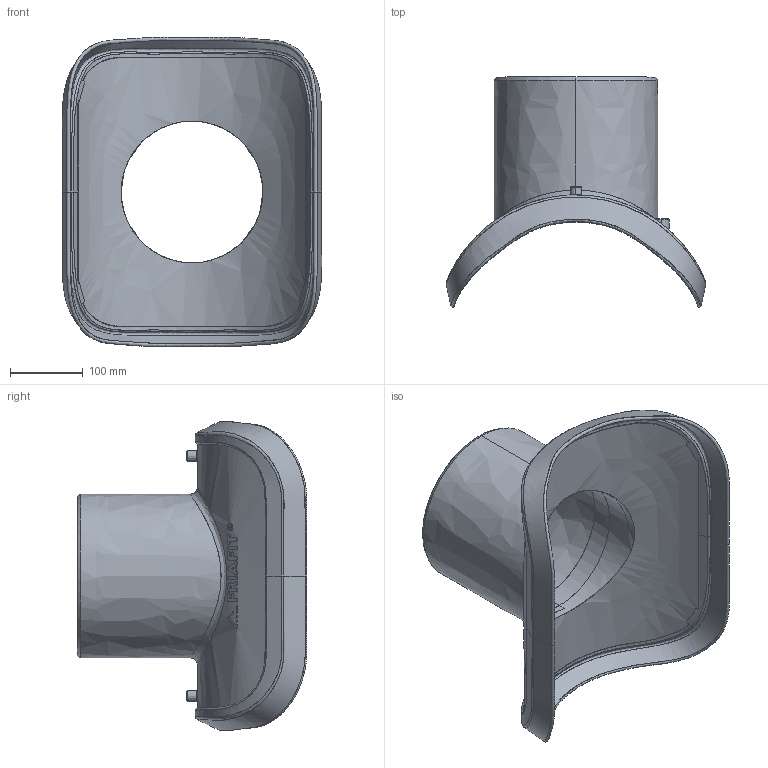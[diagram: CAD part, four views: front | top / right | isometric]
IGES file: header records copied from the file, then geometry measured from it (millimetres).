
Start section:  PTC IGES file: asa-vl_d355.igs
Global section: file name: asa-vl_d355.igs; native system: Pro/ENGINEER by Parametric Technology Corporation; preprocessor: 2011490; author: mtunjic; organization: Unknown; date: 20130724.084200; units: millimetre
Bounding box: 357.16 x 316.36 x 425.53 mm (x, y, z)
Surface area: 618571.8 mm2 (no closed solid volume)
Topology: 0 solids, 0 shells, 183 faces, 904 edges, 904 vertices
Faces by surface type: bspline 183
